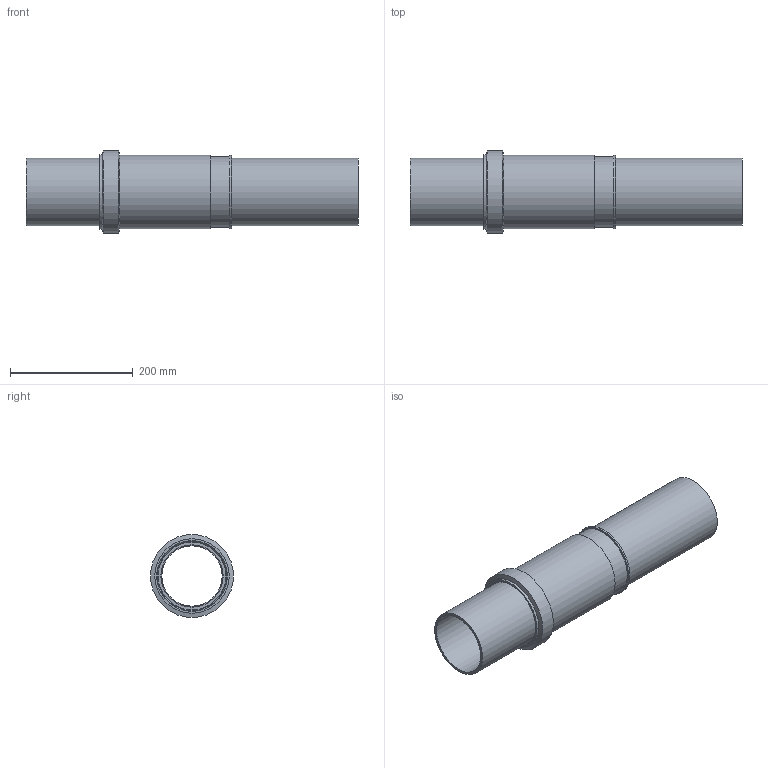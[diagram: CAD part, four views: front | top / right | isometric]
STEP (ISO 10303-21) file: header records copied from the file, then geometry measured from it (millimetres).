
FILE_DESCRIPTION(/* description */ (''),/* implementation_level */ '2;1');
FILE_NAME(/* name */ 'Z:\Geberit\Export\NewStep\367701.stp',/* time_stamp */ '2014-04-02T07:58:11+02:00',/* author */ ('nelson'),/* organization */ (''),/* preprocessor_version */ 'ST-DEVELOPER v15.2',/* originating_system */ 'Autodesk Inventor 2014',/* authorisation */ '');
FILE_SCHEMA (('AUTOMOTIVE_DESIGN { 1 0 10303 214 3 1 1 }'));
Length unit declared in the file: millimetre
Products named in the file (1): 367701
Bounding box: 539.88 x 135 x 135 mm (x, y, z)
Volume: 1055954.2 mm3; surface area: 615332.4 mm2
Topology: 2 solids, 3 shells, 40 faces, 76 edges, 44 vertices
Faces by surface type: cylinder 19, cone 9, plane 8, torus 4
Full cylindrical faces by diameter (mm): 98 x2, 100 x2, 101.4 x2, 104 x2, 105.4 x1, 110 x2, 111.5 x1, 112 x1, 114 x1, 120 x1, 120.1 x1, 121 x1, 126 x1, 135 x1
Entity records: 834 total; most frequent: DIRECTION 162, CARTESIAN_POINT 121, AXIS2_PLACEMENT_3D 81, EDGE_LOOP 80, ORIENTED_EDGE 80, FACE_BOUND 43, CIRCLE 40, VERTEX_POINT 40
